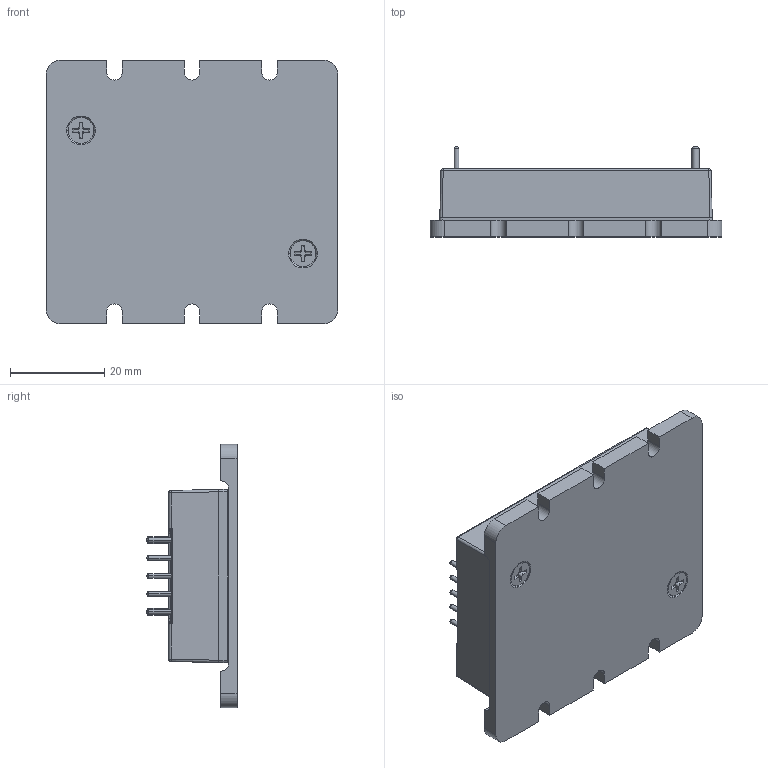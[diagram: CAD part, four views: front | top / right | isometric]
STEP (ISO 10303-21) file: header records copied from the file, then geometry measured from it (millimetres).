
FILE_DESCRIPTION((''),'2;1');
FILE_NAME('PLAN-2-100W_ASM_ASM_ASM_ASM_ASM','2021-11-17T',('eng605'),(''),'PRO/ENGINEER BY PARAMETRIC TECHNOLOGY CORPORATION, 2014000','PRO/ENGINEER BY PARAMETRIC TECHNOLOGY CORPORATION, 2014000','');
FILE_SCHEMA(('AUTOMOTIVE_DESIGN { 1 0 10303 214 1 1 1 1 }'));
Products named in the file (1): PLAN-2-100W_ASM_ASM_ASM_ASM_ASM
Bounding box: 62 x 19.15 x 56 mm (x, y, z)
Volume: 15161.9 mm3; surface area: 18567.8 mm2
Topology: 2 solids, 9 shells, 1560 faces, 3895 edges, 2443 vertices
Faces by surface type: plane 729, cylinder 545, cone 128, bspline 93, sphere 33, torus 32
Entity records: 72045 total; most frequent: CARTESIAN_POINT 24459, ORIENTED_EDGE 7724, DIRECTION 7381, EDGE_CURVE 3862, AXIS2_PLACEMENT_3D 2538, VERTEX_POINT 2443, VECTOR 2305, LINE 2305
